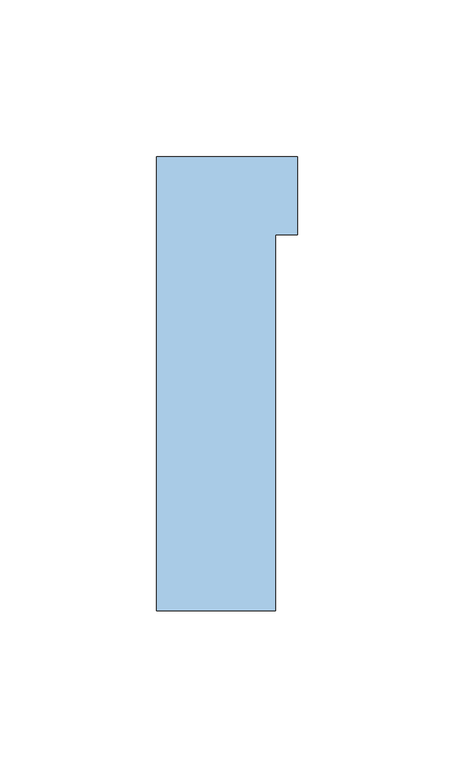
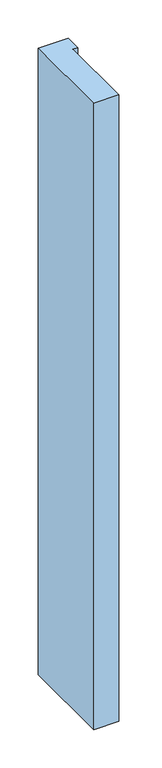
"""IFC4 building model written with IfcOpenShell, lengths in millimetres: window geometry, NLRS_30_WIN_spouwlat-zijstijll_sh_gen_TOBA-JM : ok-bk-recht-45x145."""

from ifc_helpers import new_model, si_unit, origin, origin_with_axes, place, context, project, spatial, polyline, outline, extrude, source, transform, mapped, element, save


def window_de1a16cd(model_context):
    return source(origin(), model_context, "Body", "SweptSolid", [
        extrude(outline(polyline([(-38.0, -145.0), (-38.0, 0.0), (7.0, 0.0), (7.0, -25.0), (0.0, -25.0), (0.0, -145.0), (-38.0, -145.0)])), origin_with_axes(), (0.0, 0.0, 1.0), 1000.0),
    ])


if __name__ == "__main__":
    model = new_model("IFC4")
    model_context = context("Model", 3, world=origin())
    ifc_project = project(units=[si_unit("LENGTHUNIT", "METRE", prefix="MILLI")], contexts=[model_context])
    site = spatial("IfcSite", under=ifc_project)
    building = spatial("IfcBuilding", under=site)
    placement = place(None, origin())
    window_shape = window_de1a16cd(model_context)
    element("IfcWindow", 1, ObjectType="NLRS_30_WIN_spouwlat-zijstijll_sh_gen_TOBA-JM : ok-bk-recht-45x145", at=placement, inside=building, context=model_context, shape_type="MappedRepresentation", body=[
        mapped(window_shape, transform((0.0, 0.0, 0.0), x_axis=(1.0, 0.0, 0.0), y_axis=(0.0, 1.0, 0.0), z_axis=(0.0, 0.0, 1.0))),
    ])
    save(model, "model.ifc")
